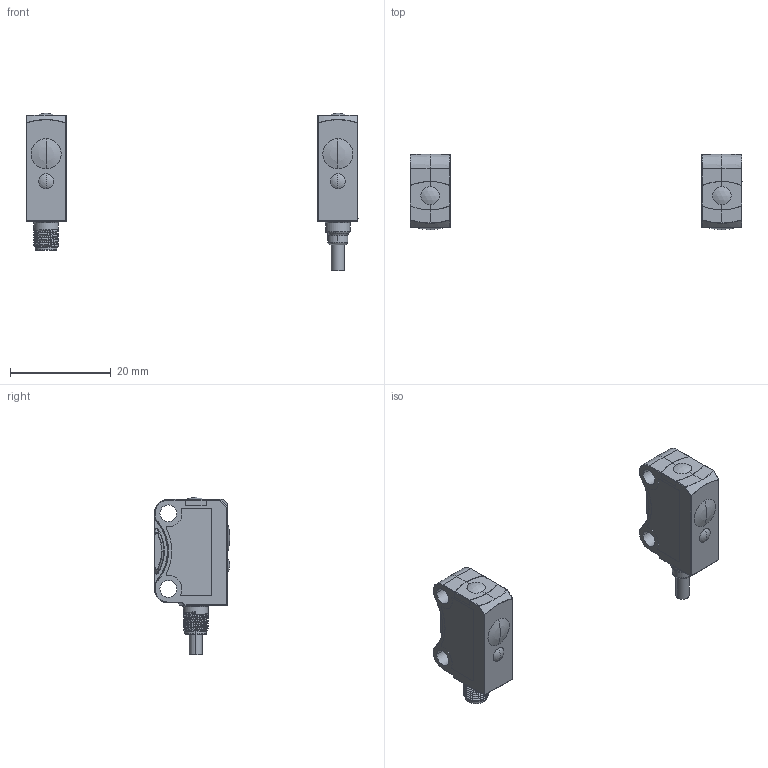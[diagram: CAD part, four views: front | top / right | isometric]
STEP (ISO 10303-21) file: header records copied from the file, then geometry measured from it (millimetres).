
FILE_DESCRIPTION((''),'2;1');
FILE_NAME('15300905_F10.stp','2011-05-12T10:40:31',(''),(''),'Mechanical Desktop 2009','Mechanical Desktop 2009',', , ');
FILE_SCHEMA(('CONFIG_CONTROL_DESIGN'));
Length unit declared in the file: millimetre
Products named in the file (4): F10_STECKER_KABEL_DUMMY; F10_STECKER; F10_KABEL; RM_SDB
Assembly tree (6 placements, depth 2):
  F10_STECKER_KABEL_DUMMY
    F10_STECKER
    F10_KABEL
    RM_SDB  x4
Bounding box: 66 x 15 x 31.3 mm (x, y, z)
Volume: 4446.2 mm3; surface area: 2910.1 mm2
Topology: 2 solids, 2 shells, 1110 faces, 3044 edges, 1950 vertices
Faces by surface type: plane 451, bspline 362, cylinder 204, cone 39, sphere 28, torus 26
Full cylindrical faces by diameter (mm): 4.9 x7
Entity records: 43623 total; most frequent: CARTESIAN_POINT 17634, ORIENTED_EDGE 5992, DIRECTION 4375, EDGE_CURVE 2996, VERTEX_POINT 1950, VECTOR 1579, LINE 1579, AXIS2_PLACEMENT_3D 1398
